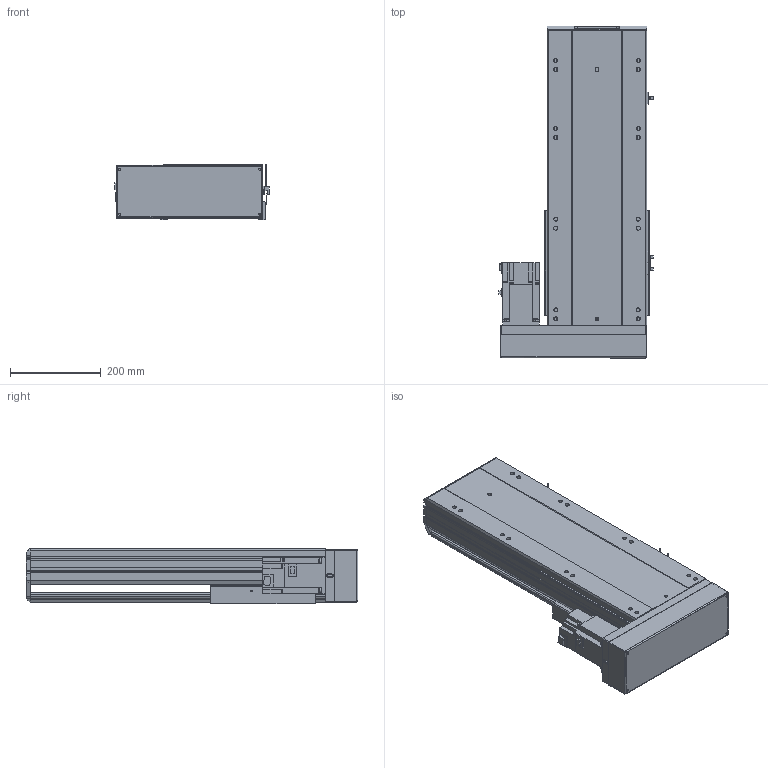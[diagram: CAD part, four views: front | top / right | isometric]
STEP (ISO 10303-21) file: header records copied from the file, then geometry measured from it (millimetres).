
FILE_DESCRIPTION (( 'STEP AP203' ), '1' );
FILE_NAME ('7.STEP', '2020-11-23T02:05:16', ( '' ), ( '' ), 'SwSTEP 2.0', 'SolidWorks 2016', '' );
FILE_SCHEMA (( 'CONFIG_CONTROL_DESIGN' ));
Length unit declared in the file: millimetre
Products named in the file (7): BTH22-BL-菁釱; BTH22-BL-T75; BTH22-BL-02; BTH22-BL-01; BTH22-BL-HZ; 7; BTH22-BL-04
Assembly tree (8 placements, depth 2):
  7
    BTH22-BL-菁釱
    BTH22-BL-01
    BTH22-BL-02
    BTH22-BL-04  x3
    BTH22-BL-HZ
    BTH22-BL-T75
Bounding box: 340 x 732 x 122.7 mm (x, y, z)
Volume: 10288849 mm3; surface area: 1448726.5 mm2
Topology: 11 solids, 11 shells, 1000 faces, 2780 edges, 1807 vertices
Faces by surface type: plane 559, cylinder 391, cone 42, bspline 8
Entity records: 29417 total; most frequent: CARTESIAN_POINT 5846, ORIENTED_EDGE 4796, DIRECTION 4744, EDGE_CURVE 2398, LINE 1590, VECTOR 1590, AXIS2_PLACEMENT_3D 1577, VERTEX_POINT 1575
